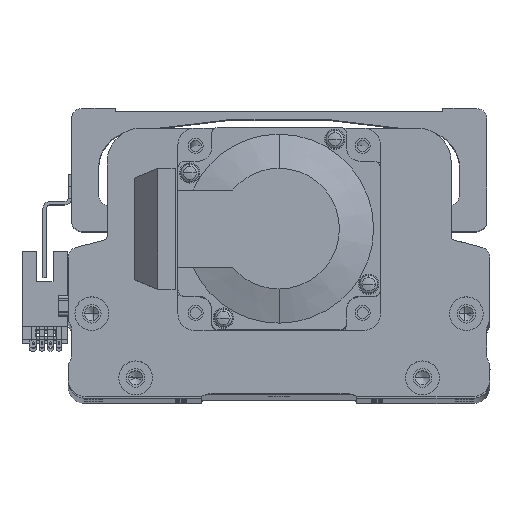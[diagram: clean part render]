
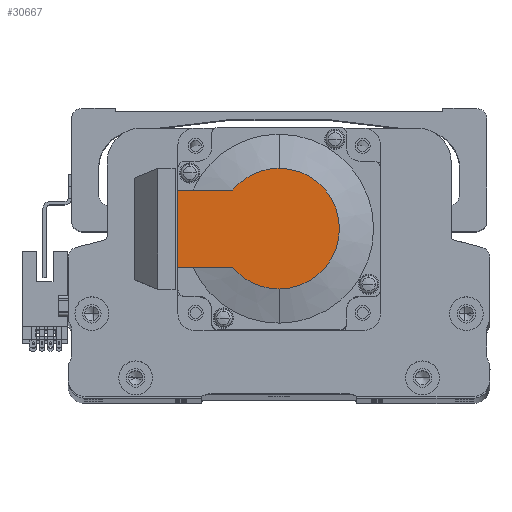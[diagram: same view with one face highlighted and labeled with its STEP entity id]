
A CAD part, top view. The second image highlights one B-rep face of the part: STEP entity #30667.
In plain terms, the highlighted planar face has unit normal (0, 0, 1) as drawn and (-1, 0, 0) by its records, which use the part's own axes.
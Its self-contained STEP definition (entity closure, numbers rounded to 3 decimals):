
#120 = ORIENTED_EDGE ( 'NONE', *, *, #14843, .T. ) ;
#1221 = DIRECTION ( 'NONE',  ( 0., -1., 0. ) ) ;
#2330 = VERTEX_POINT ( 'NONE', #35191 ) ;
#2548 = ORIENTED_EDGE ( 'NONE', *, *, #15841, .T. ) ;
#3108 = LINE ( 'NONE', #34079, #14188 ) ;
#3540 = CIRCLE ( 'NONE', #21602, 17.881 ) ;
#4170 = DIRECTION ( 'NONE',  ( -1., 0., 0. ) ) ;
#7562 = EDGE_CURVE ( 'NONE', #25273, #44631, #24135, .T. ) ;
#7814 = VERTEX_POINT ( 'NONE', #37646 ) ;
#9503 = DIRECTION ( 'NONE',  ( -1., 0., 0. ) ) ;
#11766 = CARTESIAN_POINT ( 'NONE',  ( -118.5, 0., 0. ) ) ;
#12432 = EDGE_CURVE ( 'NONE', #7814, #44397, #42338, .T. ) ;
#12817 = DIRECTION ( 'NONE',  ( -1., 0., 0. ) ) ;
#14188 = VECTOR ( 'NONE', #42498, 1000. ) ;
#14843 = EDGE_CURVE ( 'NONE', #44397, #2330, #22349, .T. ) ;
#15841 = EDGE_CURVE ( 'NONE', #37441, #7814, #3540, .T. ) ;
#16019 = DIRECTION ( 'NONE',  ( 0., 0., -1. ) ) ;
#17739 = ORIENTED_EDGE ( 'NONE', *, *, #12432, .T. ) ;
#20081 = CARTESIAN_POINT ( 'NONE',  ( -118.5, 0., 17.881 ) ) ;
#21602 = AXIS2_PLACEMENT_3D ( 'NONE', #11766, #41023, #16019 ) ;
#22349 = CIRCLE ( 'NONE', #29586, 17.881 ) ;
#22717 = FACE_OUTER_BOUND ( 'NONE', #35715, .T. ) ;
#24135 = LINE ( 'NONE', #34252, #33890 ) ;
#25273 = VERTEX_POINT ( 'NONE', #28320 ) ;
#27039 = ORIENTED_EDGE ( 'NONE', *, *, #40224, .T. ) ;
#28299 = ORIENTED_EDGE ( 'NONE', *, *, #37585, .F. ) ;
#28320 = CARTESIAN_POINT ( 'NONE',  ( -118.5, 30., -11.45 ) ) ;
#29145 = CARTESIAN_POINT ( 'NONE',  ( -118.5, -8.941, 0. ) ) ;
#29586 = AXIS2_PLACEMENT_3D ( 'NONE', #34526, #9503, #38771 ) ;
#30198 = LINE ( 'NONE', #51074, #51153 ) ;
#30667 = ADVANCED_FACE ( 'NONE', ( #22717 ), #37218, .T. ) ;
#32826 = CARTESIAN_POINT ( 'NONE',  ( -118.5, 13.735, -11.45 ) ) ;
#33300 = DIRECTION ( 'NONE',  ( 0., 0., 1. ) ) ;
#33890 = VECTOR ( 'NONE', #38505, 1000. ) ;
#34079 = CARTESIAN_POINT ( 'NONE',  ( -118.5, 0., 11.45 ) ) ;
#34252 = CARTESIAN_POINT ( 'NONE',  ( -118.5, 30., 25. ) ) ;
#34526 = CARTESIAN_POINT ( 'NONE',  ( -118.5, 0., 0. ) ) ;
#35191 = CARTESIAN_POINT ( 'NONE',  ( -118.5, 13.735, 11.45 ) ) ;
#35715 = EDGE_LOOP ( 'NONE', ( #27039, #2548, #17739, #120, #28299, #40262 ) ) ;
#37218 = PLANE ( 'NONE',  #47243 ) ;
#37441 = VERTEX_POINT ( 'NONE', #32826 ) ;
#37585 = EDGE_CURVE ( 'NONE', #44631, #2330, #3108, .T. ) ;
#37646 = CARTESIAN_POINT ( 'NONE',  ( -118.5, 0., -17.881 ) ) ;
#37893 = CARTESIAN_POINT ( 'NONE',  ( -118.5, 0., 0. ) ) ;
#38505 = DIRECTION ( 'NONE',  ( 0., 0., 1. ) ) ;
#38771 = DIRECTION ( 'NONE',  ( 0., 0., -1. ) ) ;
#40224 = EDGE_CURVE ( 'NONE', #25273, #37441, #30198, .T. ) ;
#40262 = ORIENTED_EDGE ( 'NONE', *, *, #7562, .F. ) ;
#41023 = DIRECTION ( 'NONE',  ( -1., 0., 0. ) ) ;
#42048 = DIRECTION ( 'NONE',  ( 0., 0., -1. ) ) ;
#42338 = CIRCLE ( 'NONE', #47999, 17.881 ) ;
#42498 = DIRECTION ( 'NONE',  ( 0., -1., 0. ) ) ;
#44397 = VERTEX_POINT ( 'NONE', #20081 ) ;
#44631 = VERTEX_POINT ( 'NONE', #46707 ) ;
#46707 = CARTESIAN_POINT ( 'NONE',  ( -118.5, 30., 11.45 ) ) ;
#47243 = AXIS2_PLACEMENT_3D ( 'NONE', #29145, #4170, #33300 ) ;
#47999 = AXIS2_PLACEMENT_3D ( 'NONE', #37893, #12817, #42048 ) ;
#51074 = CARTESIAN_POINT ( 'NONE',  ( -118.5, -8.941, -11.45 ) ) ;
#51153 = VECTOR ( 'NONE', #1221, 1000. ) ;
